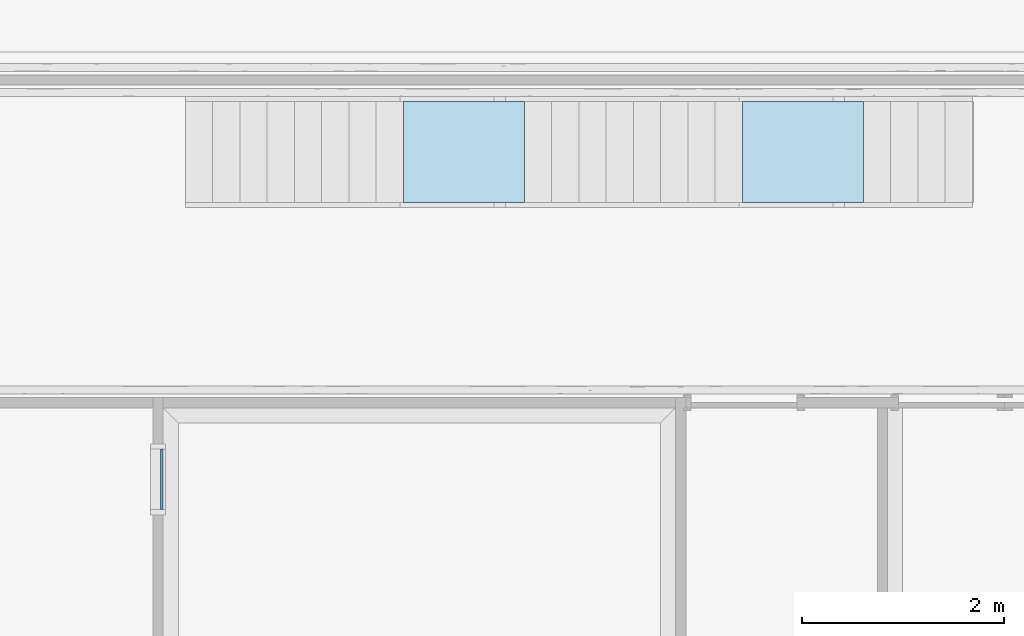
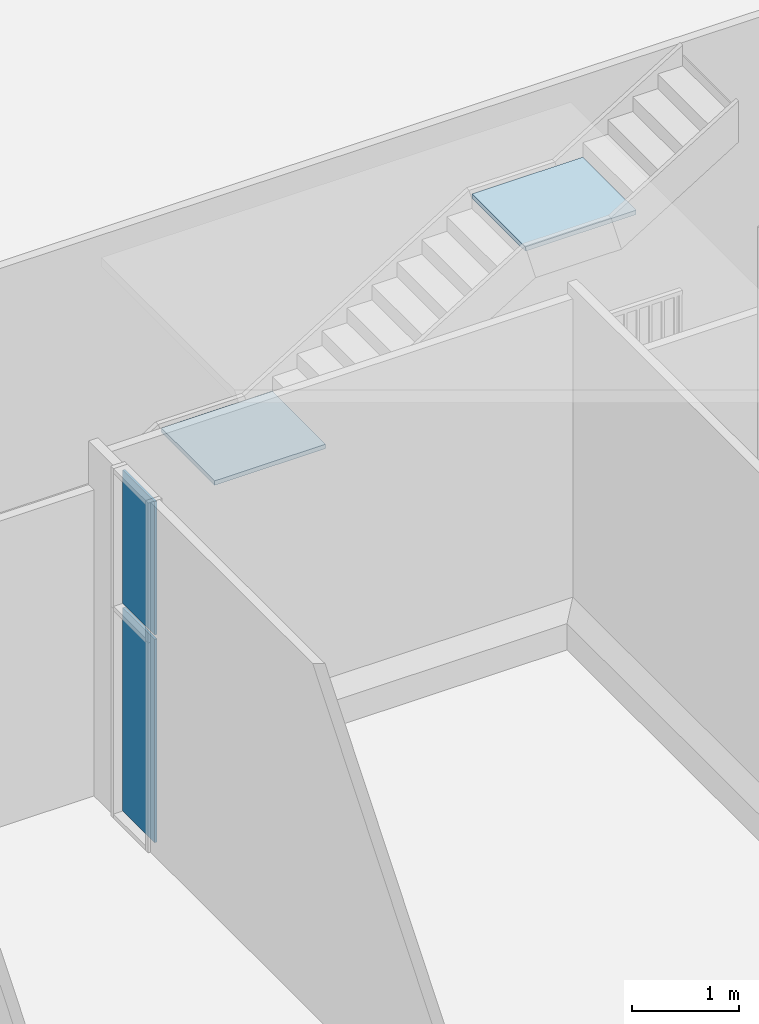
# One storey, part 14 of 64: 2 plates, 2 slabs, 2 elements without a shape of their own.
"""IFC2X3 building model written with IfcOpenShell, lengths in millimetres."""

from ifc_helpers import new_model, entity, si_unit, converted_unit, derived_unit, direction, frame, origin, origin_2d_with_axis, place, context, subcontext, project, spatial, rectangle, extrude, source, transform, mapped, material, type_object, type_shapes, element, aggregate, save


model = new_model("IFC2X3")

# Units and contexts
model_context = context("Model", 3, precision=0.01, world=origin(), true_north=direction((4.05803320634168e-15, -1.0)))
body_context = subcontext(model_context, "Body", "Model", "MODEL_VIEW")
ifc_project = project(units=[si_unit("LENGTHUNIT", "METRE", prefix="MILLI"), si_unit("AREAUNIT", "SQUARE_METRE"), si_unit("VOLUMEUNIT", "CUBIC_METRE"), converted_unit("PLANEANGLEUNIT", "DEGREE", entity("IfcRatioMeasure", 0.0174532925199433), si_unit("PLANEANGLEUNIT", "RADIAN"), dimensions=[0, 0, 0, 0, 0, 0, 0]), si_unit("MASSUNIT", "GRAM", prefix="KILO"), derived_unit("MASSDENSITYUNIT", [(si_unit("MASSUNIT", "GRAM", prefix="KILO"), 1), (si_unit("LENGTHUNIT", "METRE"), -3)]), si_unit("TIMEUNIT", "SECOND"), si_unit("FREQUENCYUNIT", "HERTZ"), si_unit("THERMODYNAMICTEMPERATUREUNIT", "DEGREE_CELSIUS"), derived_unit("THERMALTRANSMITTANCEUNIT", [(si_unit("MASSUNIT", "GRAM", prefix="KILO"), 1), (si_unit("THERMODYNAMICTEMPERATUREUNIT", "KELVIN"), -1), (si_unit("TIMEUNIT", "SECOND"), -3)]), derived_unit("VOLUMETRICFLOWRATEUNIT", [(si_unit("LENGTHUNIT", "METRE"), 3), (si_unit("TIMEUNIT", "SECOND"), -1)]), si_unit("ELECTRICCURRENTUNIT", "AMPERE"), si_unit("ELECTRICVOLTAGEUNIT", "VOLT"), si_unit("POWERUNIT", "WATT"), si_unit("FORCEUNIT", "NEWTON", prefix="KILO"), si_unit("ILLUMINANCEUNIT", "LUX"), si_unit("LUMINOUSFLUXUNIT", "LUMEN"), si_unit("LUMINOUSINTENSITYUNIT", "CANDELA"), derived_unit("USERDEFINED", [(si_unit("MASSUNIT", "GRAM", prefix="KILO"), -1), (si_unit("LENGTHUNIT", "METRE"), -2), (si_unit("TIMEUNIT", "SECOND"), 3), (si_unit("LUMINOUSFLUXUNIT", "LUMEN"), 1)]), derived_unit("LINEARVELOCITYUNIT", [(si_unit("LENGTHUNIT", "METRE"), 1), (si_unit("TIMEUNIT", "SECOND"), -1)]), si_unit("PRESSUREUNIT", "PASCAL"), derived_unit("USERDEFINED", [(si_unit("LENGTHUNIT", "METRE"), -2), (si_unit("MASSUNIT", "GRAM", prefix="KILO"), 1), (si_unit("TIMEUNIT", "SECOND"), -2)])], contexts=[model_context])

# Site, building, storey
site_placement = place(None, frame((927466.849349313, 583801.882853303, 0.0), z_axis=(0.0, 0.0, 1.0), x_axis=(-1.0, 0.0, 0.0)))
site = spatial("IfcSite", under=ifc_project, at=site_placement, Name="Surface", CompositionType="ELEMENT")
building_placement = place(site_placement, origin())
building = spatial("IfcBuilding", under=site, at=building_placement, CompositionType="ELEMENT")
storey_placement = place(building_placement, frame((0.0, 0.0, 44170.0)))
storey = spatial("IfcBuildingStorey", under=building, at=storey_placement, Name="Ground FFL", CompositionType="ELEMENT", Elevation=44170.0)

# Curtain wall, plates
curtain_wall_type = type_object("IfcCurtainWallType", Name="Curtain Wall:Storefront", PredefinedType="NOTDEFINED")
curtain_wall_placement = place(storey_placement, frame((0.0, 0.0, -44170.0)))
curtain_wall = element("IfcCurtainWall", 1, at=curtain_wall_placement, inside=storey, type_object=curtain_wall_type, Name="Curtain Wall:Storefront", ObjectType="Curtain Wall:Storefront")
ifc_material = material(Name="Glass")
plate_type_1 = type_object("IfcPlateType", Name="Glazed", PredefinedType="CURTAIN_PANEL", material=ifc_material)
shared_shape_1 = source(origin(), body_context, "Body", "SweptSolid", [
    extrude(rectangle(XDim=25.0, YDim=599.999999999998, at=origin_2d_with_axis()), frame((0.0, 37.0, 0.0), z_axis=(0.0, 0.0, 1.0), x_axis=(0.0, 1.0, 0.0)), (0.0, 0.0, 1.0), 2325.0),
])
type_shapes(plate_type_1, [shared_shape_1])
plate_1_placement = place(curtain_wall_placement, frame((-104897.937276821, 15917.4703266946, 44220.0), z_axis=(0.0, 0.0, 1.0), x_axis=(0.0, 1.0, 0.0)))
plate_1 = element("IfcPlate", 2, at=plate_1_placement, type_object=plate_type_1, material=ifc_material, Name="System Panel:Glazed", ObjectType="Glazed", context=body_context, shape_type="MappedRepresentation", body=[
    mapped(shared_shape_1, transform((0.0, 0.0, 0.0), scale=1.0)),
])
plate_type_2 = type_object("IfcPlateType", Name="Glazed", PredefinedType="CURTAIN_PANEL", material=ifc_material)
shared_shape_2 = source(origin(), body_context, "Body", "SweptSolid", [
    extrude(rectangle(XDim=25.0, YDim=599.999999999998, at=origin_2d_with_axis()), frame((0.0, 37.0, 0.0), z_axis=(0.0, 0.0, 1.0), x_axis=(0.0, 1.0, 0.0)), (0.0, 0.0, 1.0), 1525.0),
])
type_shapes(plate_type_2, [shared_shape_2])
plate_2_placement = place(curtain_wall_placement, frame((-104897.937276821, 15917.4703266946, 46595.0), z_axis=(0.0, 0.0, 1.0), x_axis=(0.0, 1.0, 0.0)))
plate_2 = element("IfcPlate", 3, at=plate_2_placement, type_object=plate_type_2, material=ifc_material, Name="System Panel:Glazed", ObjectType="Glazed", context=body_context, shape_type="MappedRepresentation", body=[
    mapped(shared_shape_2, transform((0.0, 0.0, 0.0), scale=1.0)),
])
aggregate(curtain_wall, [plate_1, plate_2])

# Stair, slabs
stair_placement = place(storey_placement, origin())
stair = element("IfcStair", 4, at=stair_placement, inside=storey, Name="Assembled Stair:Stair", ObjectType="Assembled Stair:170mm max riser 270mm going", ShapeType="NOTDEFINED")
slab_1_placement = place(stair_placement, origin())
slab_1 = element("IfcSlab", 5, at=slab_1_placement, Name="Assembled Stair:Stair:621048 Landing 1", ObjectType="Assembled Stair:170mm max riser 270mm going", PredefinedType="LANDING", context=body_context, shape_type="SweptSolid", body=[
    extrude(rectangle(XDim=1000.0, YDim=1199.94550989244, at=origin_2d_with_axis()), frame((-107928.967256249, 12672.4703497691, 1450.0), z_axis=(0.0, 0.0, 1.0), x_axis=(0.0, 1.0, 0.0)), (0.0, 0.0, 1.0), 49.9999999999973),
])
slab_2_placement = place(stair_placement, origin())
slab_2 = element("IfcSlab", 6, at=slab_2_placement, Name="Assembled Stair:Stair:621048 Landing 2", ObjectType="Assembled Stair:170mm max riser 270mm going", PredefinedType="LANDING", context=body_context, shape_type="SweptSolid", body=[
    extrude(rectangle(XDim=1000.0, YDim=1200.0, at=origin_2d_with_axis()), frame((-111288.940011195, 12672.4703497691, 2950.0), z_axis=(0.0, 0.0, 1.0), x_axis=(0.0, 1.0, 0.0)), (0.0, 0.0, 1.0), 49.9999999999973),
])
aggregate(stair, [slab_1, slab_2])

save(model, "model.ifc")
